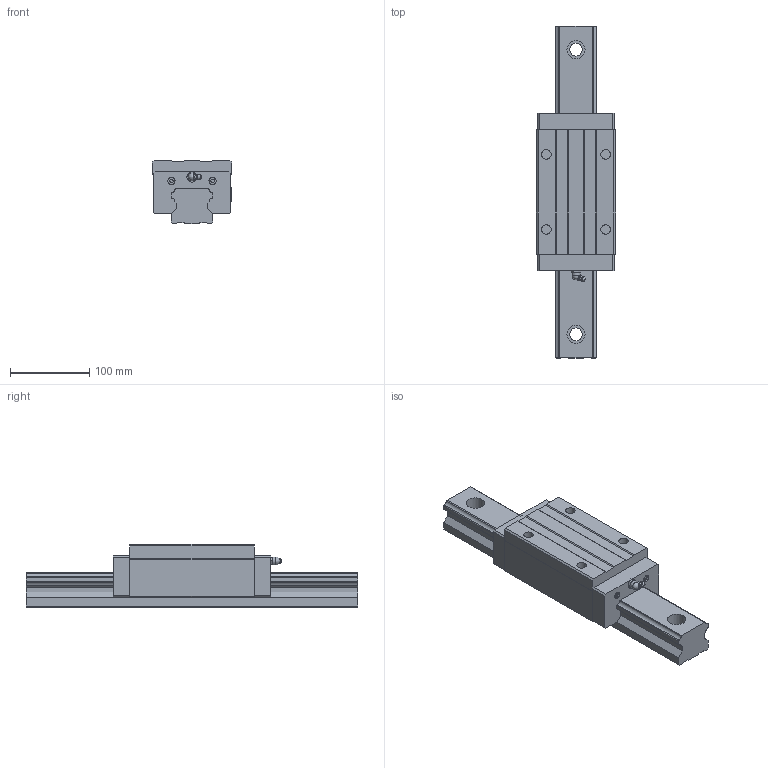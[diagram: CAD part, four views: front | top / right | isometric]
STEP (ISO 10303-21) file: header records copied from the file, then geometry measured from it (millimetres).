
FILE_DESCRIPTION(/* description */ (''),/* implementation_level */ '2;1');
FILE_NAME(/* name */ 'MSA55LS',/* time_stamp */ '2005-12-26T16:29:08+08:00',/* author */ (''),/* organization */ (''),/* preprocessor_version */ 'ST-DEVELOPER v9',/* originating_system */ 'UGS - NX 3.0',/* authorisation */ '');
FILE_SCHEMA (('CONFIG_CONTROL_DESIGN'));
Length unit declared in the file: millimetre
Products named in the file (1): kevi37F33h3o
Bounding box: 100 x 420 x 80 mm (x, y, z)
Volume: 1781955.5 mm3; surface area: 190655.1 mm2
Topology: 3 solids, 3 shells, 172 faces, 443 edges, 294 vertices
Faces by surface type: plane 118, cylinder 43, torus 7, sphere 2, cone 1, bspline 1
Full cylindrical faces by diameter (mm): 4.5 x4, 9 x4, 10 x1, 12 x4, 13 x2, 16 x4, 23 x4
Entity records: 5222 total; most frequent: CARTESIAN_POINT 1046, DIRECTION 831, ORIENTED_EDGE 810, EDGE_CURVE 405, VERTEX_POINT 284, LINE 277, VECTOR 277, AXIS2_PLACEMENT_3D 277
